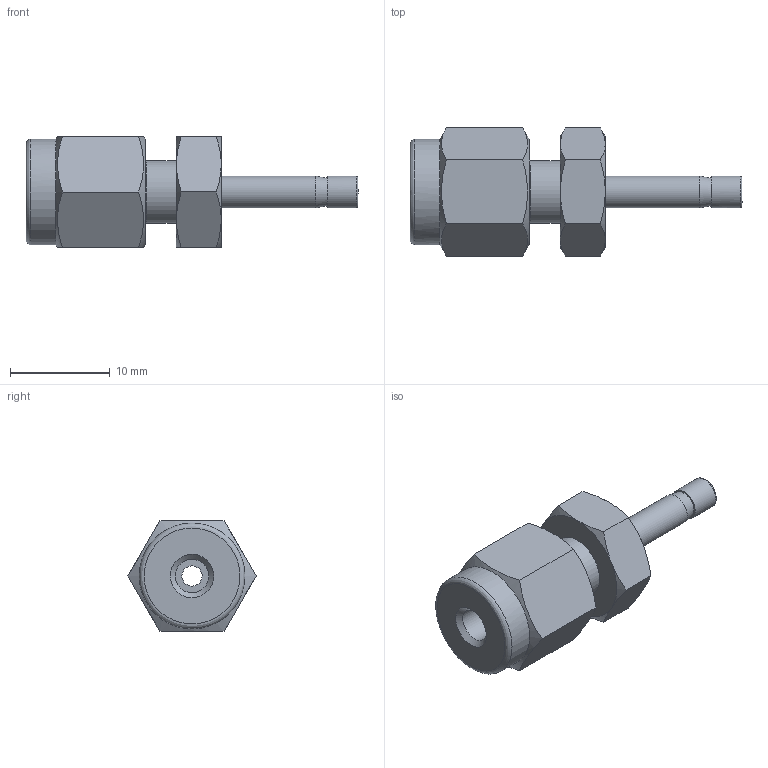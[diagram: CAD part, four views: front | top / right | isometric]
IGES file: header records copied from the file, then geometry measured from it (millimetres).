
Global section: file name: SR-2-2; native system: Autodesk Inventor 2016; preprocessor: unknown; author: DESIGNPC2; date: 20151111.152215; units: millimetre
Bounding box: 33.26 x 12.83 x 11.11 mm (x, y, z)
Volume: 1713 mm3; surface area: 1400 mm2
Topology: 1 solids, 1 shells, 39 faces, 102 edges, 70 vertices
Faces by surface type: bspline 39
